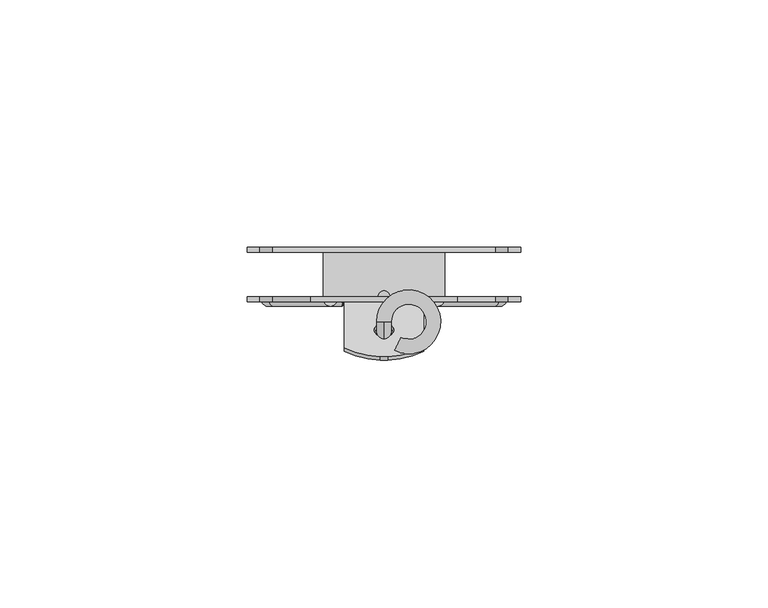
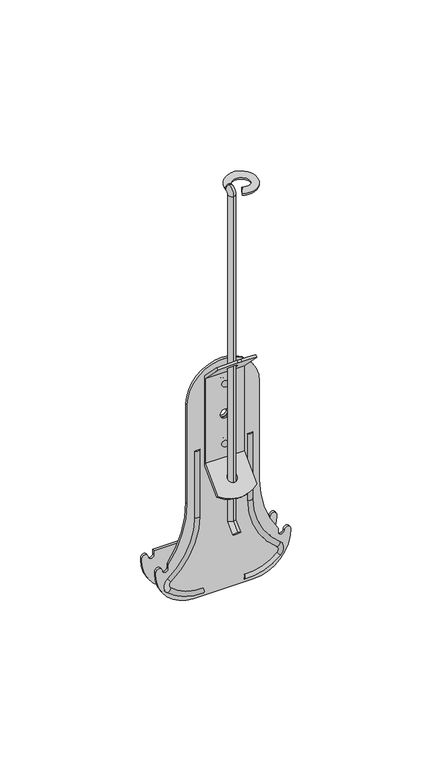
"""IFC4 building model written with IfcOpenShell, lengths in millimetres: proxy geometry, Анкерный подвес с зажимом для профилей ПП 60x27 : Анкерный подвес с зажимом для профилей ПП 60x27."""

from ifc_helpers import new_model, si_unit, point, frame, origin, place, context, project, spatial, polyline, circle_curve, ellipse_curve, trimmed, source, transform, mapped, element, save
from ifc_brep_helpers import plane_surface, cylinder_surface, revolved_surface, advanced_brep


def generic_models_5f2788f5(model_context):
    return source(origin(), model_context, "Body", "AdvancedBrep", [
        advanced_brep(
        [(1.4615158, -4.5763756, 158.5411196), (-1.4562451, -4.5763756, 158.5411196), (3.4485103, -7.758234, 158.5411196), (2.1679647, -10.3799761, 158.5411196)],
        [
            (0, 1, circle_curve(frame((0.0026354, -4.5763756, 158.5411196), z_axis=(0.0, -1.0, 0.0), x_axis=(-1.0, 0.0, 0.0)), 1.4588804)),
            (1, 0, circle_curve(frame((0.0026354, -4.5763756, 158.5411196), z_axis=(0.0, -1.0, 0.0), x_axis=(-1.0, 0.0, 0.0)), 1.4588804)),
            (2, 3, circle_curve(frame((2.8082375, -9.069105, 158.5411196), z_axis=(-0.898545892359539, 0.4388795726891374, 0.0), x_axis=(-0.4388795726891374, -0.898545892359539, 0.0)), 1.4588804)),
            (3, 2, circle_curve(frame((2.8082375, -9.069105, 158.5411196), z_axis=(-0.898545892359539, 0.4388795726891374, 0.0), x_axis=(-0.4388795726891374, -0.898545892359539, 0.0)), 1.4588804)),
            (3, 1, circle_curve(frame((5.0026354, -4.5763756, 158.5411196), z_axis=(0.0, 0.0, 1.0), x_axis=(-1.0, 0.0, 0.0)), 6.4588804)),
            (0, 2, circle_curve(frame((5.0026354, -4.5763756, 158.5411196), z_axis=(0.0, 0.0, -1.0), x_axis=(-1.0, 0.0, 0.0)), 3.5411196)),
        ],
        [
            plane_surface(frame((0.0026354, -4.5763756, 160.0), z_axis=(0.0, -1.0, 0.0), x_axis=(0.0, 0.0, 1.0))),
            plane_surface(frame((2.8082375, -9.069105, 160.0), z_axis=(-0.8985458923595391, 0.4388795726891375, 0.0), x_axis=(0.0, 0.0, 1.0))),
            revolved_surface(trimmed(ellipse_curve(frame((0.0026354, -4.5763756, 158.5411196), z_axis=(0.0, -1.0, 0.0), x_axis=(-1.0, 0.0, 0.0)), 1.4588804, 1.4588804), [point((1.4615158, -4.5763756, 158.5411196))], [point((-1.4562451, -4.5763756, 158.5411196))], True, "CARTESIAN"), (5.0026354, -4.5763756, 160.0), (0.0, 0.0, -1.0)),
            revolved_surface(trimmed(ellipse_curve(frame((0.0026354, -4.5763756, 158.5411196), z_axis=(0.0, -1.0, 0.0), x_axis=(-1.0, 0.0, 0.0)), 1.4588804, 1.4588804), [point((-1.4562451, -4.5763756, 158.5411196))], [point((1.4615158, -4.5763756, 158.5411196))], True, "CARTESIAN"), (5.0026354, -4.5763756, 160.0), (0.0, 0.0, -1.0)),
        ],
        [
            (0, [[1, 2]]),
            (1, [[3, 4]]),
            (2, [[5, -1, 6, -4]]),
            (3, [[-6, -2, -5, -3]]),
        ],
    ),
        advanced_brep(
        [(0.0, -9.0821887, 10.4347453), (0.0, -11.1416303, 12.4941869), (0.0, -5.1201305, 14.3968035), (0.0, -8.0326207, 15.6031965), (0.0, -5.1201305, 156.5), (0.0, -8.0326207, 156.5), (0.0, -4.5763756, 157.0437549), (0.0, -4.5763756, 159.9562451)],
        [
            (0, 1, circle_curve(frame((0.0, -10.1119095, 11.4644661), z_axis=(0.0, -0.7071067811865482, -0.7071067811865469), x_axis=(0.0, -0.7071067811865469, 0.7071067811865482)), 1.4562451)),
            (1, 0, circle_curve(frame((0.0, -10.1119095, 11.4644661), z_axis=(0.0, -0.7071067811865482, -0.7071067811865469), x_axis=(0.0, -0.7071067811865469, 0.7071067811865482)), 1.4562451)),
            (0, 2),
            (2, 3, ellipse_curve(frame((0.0, -6.5763756, 15.0), z_axis=(0.0, -0.3826834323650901, -0.9238795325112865), x_axis=(0.0, -0.923879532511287, 0.3826834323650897)), 1.5762283, 1.4562451)),
            (3, 1),
            (3, 2, ellipse_curve(frame((0.0, -6.5763756, 15.0), z_axis=(0.0, -0.3826834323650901, -0.9238795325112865), x_axis=(0.0, -0.923879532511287, 0.3826834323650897)), 1.5762283, 1.4562451)),
            (2, 4),
            (4, 5, circle_curve(frame((0.0, -6.5763756, 156.5), z_axis=(0.0, 0.0, -1.0), x_axis=(0.0, -1.0, 0.0)), 1.4562451)),
            (5, 3),
            (5, 4, circle_curve(frame((0.0, -6.5763756, 156.5), z_axis=(0.0, 0.0, -1.0), x_axis=(0.0, -1.0, 0.0)), 1.4562451)),
            (6, 7, circle_curve(frame((0.0, -4.5763756, 158.5), z_axis=(0.0, 1.0, 0.0), x_axis=(0.0, 0.0, 1.0)), 1.4562451)),
            (7, 6, circle_curve(frame((0.0, -4.5763756, 158.5), z_axis=(0.0, 1.0, 0.0), x_axis=(0.0, 0.0, 1.0)), 1.4562451)),
            (7, 5, circle_curve(frame((0.0, -4.5763756, 156.5), z_axis=(1.0, 0.0, 0.0), x_axis=(0.0, -1.0, 0.0)), 3.4562451)),
            (4, 6, circle_curve(frame((0.0, -4.5763756, 156.5), z_axis=(-1.0, 0.0, 0.0), x_axis=(0.0, -1.0, 0.0)), 0.5437549)),
        ],
        [
            plane_surface(frame((0.0, -10.1119095, 11.4644661), z_axis=(0.0, -0.7071067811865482, -0.7071067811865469), x_axis=(1.0, 0.0, 0.0))),
            cylinder_surface(frame((0.0, -10.1119095, 11.4644661), z_axis=(0.0, -0.7071067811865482, -0.7071067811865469), x_axis=(0.0, -0.7071067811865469, 0.7071067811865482)), 1.4562451),
            cylinder_surface(frame((0.0, -6.5763756, 15.0), z_axis=(0.0, 0.0, -1.0), x_axis=(0.0, -1.0, 0.0)), 1.4562451),
            plane_surface(frame((0.0, -4.5763756, 158.5), z_axis=(0.0, 1.0, 0.0), x_axis=(1.0, 0.0, 0.0))),
            revolved_surface(trimmed(ellipse_curve(frame((0.0, -6.5763756, 156.5), z_axis=(0.0, 0.0, -1.0), x_axis=(0.0, -1.0, 0.0)), 1.4562451, 1.4562451), [point((0.0, -5.1201305, 156.5))], [point((0.0, -8.0326207, 156.5))], True, "CARTESIAN"), (0.0, -4.5763756, 156.5), (-1.0, 0.0, 0.0)),
            revolved_surface(trimmed(ellipse_curve(frame((0.0, -6.5763756, 156.5), z_axis=(0.0, 0.0, -1.0), x_axis=(0.0, -1.0, 0.0)), 1.4562451, 1.4562451), [point((0.0, -8.0326207, 156.5))], [point((0.0, -5.1201305, 156.5))], True, "CARTESIAN"), (0.0, -4.5763756, 156.5), (-1.0, 0.0, 0.0)),
        ],
        [
            (0, [[1, 2]]),
            (1, [[-1, 3, 4, 5]]),
            (1, [[-2, -5, 6, -3]]),
            (2, [[-4, 7, 8, 9]]),
            (2, [[-6, -9, 10, -7]]),
            (3, [[11, 12]]),
            (4, [[13, -8, 14, -12]]),
            (5, [[-14, -10, -13, -11]]),
        ],
    ),
        advanced_brep(
        [(12.3125406, 0.5, -18.3083515), (12.3125406, 9.5, -18.3083515), (12.3125406, 9.5, -17.3083515), (12.3125406, 0.5, -17.3083515), (-12.3125406, 9.5, -17.3083515), (-12.3125406, 0.5, -17.3083515), (-12.3125406, 9.5, -18.3083515), (-12.3125406, 0.5, -18.3083515), (12.3125406, -0.5, -18.3083515), (-12.3125406, -0.5, -18.3083515), (-12.3125406, 10.5, -18.3083515), (12.3125406, 10.5, -18.3083515), (-14.8079038, -0.5, 23.7764129), (-22.5333287, -0.5, 0.0), (-22.5333287, -0.5, -1.7519095), (-25.1521363, -0.5, -1.7519095), (-27.659329, -0.5, -1.7519095), (-27.659329, -0.5, -2.7244637), (27.659329, -0.5, -2.7244637), (27.659329, -0.5, -1.7519095), (25.1521363, -0.5, -1.7519095), (22.5333287, -0.5, -1.7519095), (22.5333287, -0.5, 0.0), (14.8079038, -0.5, 23.7764129), (14.8079038, -0.5, 66.6922037), (-14.8079038, -0.5, 66.6922037), (-1.8679865, -0.5, 58.4017665), (1.8679865, -0.5, 58.4017665), (-14.8079038, 0.5, 23.7764129), (-14.8079038, 0.5, 66.6922037), (14.8079038, 0.5, 66.6922037), (14.8079038, 0.5, 23.7764129), (22.5333287, 0.5, 0.0), (22.5333287, 0.5, -1.7519095), (25.1521363, 0.5, -1.7519095), (27.659329, 0.5, -1.7519095), (27.659329, 0.5, -2.7244637), (-27.659329, 0.5, -2.7244637), (-27.659329, 0.5, -1.7519095), (-25.1521363, 0.5, -1.7519095), (-22.5333287, 0.5, -1.7519095), (-22.5333287, 0.5, 0.0), (-1.8679865, 0.5, 58.4017665), (1.8679865, 0.5, 58.4017665), (-22.5333287, 9.5, -1.7519095), (-25.1521363, 9.5, -1.7519095), (-27.659329, 9.5, -1.7519095), (-27.659329, 9.5, -2.7244637), (27.659329, 9.5, -2.7244637), (27.659329, 9.5, -1.7519095), (25.1521363, 9.5, -1.7519095), (22.5333287, 9.5, -1.7519095), (22.5333287, 9.5, 0.0), (-22.5333287, 9.5, 0.0), (-22.5333287, 10.5, -1.7519095), (-22.5333287, 10.5, 0.0), (22.5333287, 10.5, 0.0), (22.5333287, 10.5, -1.7519095), (25.1521363, 10.5, -1.7519095), (27.659329, 10.5, -1.7519095), (27.659329, 10.5, -2.7244637), (-27.659329, 10.5, -2.7244637), (-27.659329, 10.5, -1.7519095), (-25.1521363, 10.5, -1.7519095)],
        [
            (0, 1),
            (1, 2),
            (2, 3),
            (3, 0),
            (2, 4),
            (4, 5),
            (5, 3),
            (4, 6),
            (6, 7),
            (7, 5),
            (0, 8),
            (8, 9),
            (9, 7),
            (6, 10),
            (10, 11),
            (11, 1),
            (12, 13, circle_curve(frame((-55.2587535, -0.5, 23.7764129), z_axis=(0.0, 1.0, 0.0), x_axis=(1.0, 0.0, 0.0)), 40.4508497)),
            (13, 14),
            (14, 15, circle_curve(frame((-23.8427325, -0.5, -1.7519095), z_axis=(0.0, 1.0, 0.0), x_axis=(1.0, 0.0, 0.0)), 1.3094038)),
            (15, 16, circle_curve(frame((-26.4057327, -0.5, -1.7519095), z_axis=(0.0, -1.0, 0.0), x_axis=(1.0, 0.0, 0.0)), 1.2535963)),
            (16, 17),
            (17, 9, circle_curve(frame((-12.0736096, -0.5, -2.7244637), z_axis=(0.0, -1.0, 0.0), x_axis=(1.0, 0.0, 0.0)), 15.5857194)),
            (8, 18, circle_curve(frame((12.0736096, -0.5, -2.7244637), z_axis=(0.0, -1.0, 0.0), x_axis=(-1.0, 0.0, 0.0)), 15.5857194)),
            (18, 19),
            (19, 20, circle_curve(frame((26.4057327, -0.5, -1.7519095), z_axis=(0.0, -1.0, 0.0), x_axis=(-1.0, 0.0, 0.0)), 1.2535963)),
            (20, 21, circle_curve(frame((23.8427325, -0.5, -1.7519095), z_axis=(0.0, 1.0, 0.0), x_axis=(-1.0, 0.0, 0.0)), 1.3094038)),
            (21, 22),
            (22, 23, circle_curve(frame((55.2587535, -0.5, 23.7764129), z_axis=(0.0, 1.0, 0.0), x_axis=(1.0, 0.0, 0.0)), 40.4508497)),
            (23, 24),
            (24, 25, circle_curve(frame((0.0, -0.5, 66.6922037), z_axis=(0.0, -1.0, 0.0), x_axis=(1.0, 0.0, 0.0)), 14.8079038)),
            (25, 12),
            (26, 27, circle_curve(frame((0.0, -0.5, 58.4017665), z_axis=(0.0, 1.0, 0.0), x_axis=(1.0, 0.0, 0.0)), 1.8679865)),
            (27, 26, circle_curve(frame((0.0, -0.5, 58.4017665), z_axis=(0.0, 1.0, 0.0), x_axis=(1.0, 0.0, 0.0)), 1.8679865)),
            (28, 29),
            (29, 30, circle_curve(frame((0.0, 0.5, 66.6922037), z_axis=(0.0, 1.0, 0.0), x_axis=(1.0, 0.0, 0.0)), 14.8079038)),
            (30, 31),
            (31, 32, circle_curve(frame((55.2587535, 0.5, 23.7764129), z_axis=(0.0, -1.0, 0.0), x_axis=(1.0, 0.0, 0.0)), 40.4508497)),
            (32, 33),
            (33, 34, circle_curve(frame((23.8427325, 0.5, -1.7519095), z_axis=(0.0, -1.0, 0.0), x_axis=(-1.0, 0.0, 0.0)), 1.3094038)),
            (34, 35, circle_curve(frame((26.4057327, 0.5, -1.7519095), z_axis=(0.0, 1.0, 0.0), x_axis=(-1.0, 0.0, 0.0)), 1.2535963)),
            (35, 36),
            (36, 0, circle_curve(frame((12.0736096, 0.5, -2.7244637), z_axis=(0.0, 1.0, 0.0), x_axis=(-1.0, 0.0, 0.0)), 15.5857194)),
            (7, 37, circle_curve(frame((-12.0736096, 0.5, -2.7244637), z_axis=(0.0, 1.0, 0.0), x_axis=(1.0, 0.0, 0.0)), 15.5857194)),
            (37, 38),
            (38, 39, circle_curve(frame((-26.4057327, 0.5, -1.7519095), z_axis=(0.0, 1.0, 0.0), x_axis=(1.0, 0.0, 0.0)), 1.2535963)),
            (39, 40, circle_curve(frame((-23.8427325, 0.5, -1.7519095), z_axis=(0.0, -1.0, 0.0), x_axis=(1.0, 0.0, 0.0)), 1.3094038)),
            (40, 41),
            (41, 28, circle_curve(frame((-55.2587535, 0.5, 23.7764129), z_axis=(0.0, -1.0, 0.0), x_axis=(1.0, 0.0, 0.0)), 40.4508497)),
            (42, 43, circle_curve(frame((0.0, 0.5, 58.4017665), z_axis=(0.0, -1.0, 0.0), x_axis=(1.0, 0.0, 0.0)), 1.8679865)),
            (43, 42, circle_curve(frame((0.0, 0.5, 58.4017665), z_axis=(0.0, -1.0, 0.0), x_axis=(1.0, 0.0, 0.0)), 1.8679865)),
            (13, 41),
            (40, 14),
            (39, 15),
            (38, 16),
            (37, 17),
            (36, 18),
            (35, 19),
            (34, 20),
            (33, 21),
            (32, 22),
            (23, 31),
            (30, 24),
            (29, 25),
            (28, 12),
            (26, 42),
            (43, 27),
            (44, 45, circle_curve(frame((-23.8427325, 9.5, -1.7519095), z_axis=(0.0, 1.0, 0.0), x_axis=(1.0, 0.0, 0.0)), 1.3094038)),
            (45, 46, circle_curve(frame((-26.4057327, 9.5, -1.7519095), z_axis=(0.0, -1.0, 0.0), x_axis=(1.0, 0.0, 0.0)), 1.2535963)),
            (46, 47),
            (47, 6, circle_curve(frame((-12.0736096, 9.5, -2.7244637), z_axis=(0.0, -1.0, 0.0), x_axis=(1.0, 0.0, 0.0)), 15.5857194)),
            (1, 48, circle_curve(frame((12.0736096, 9.5, -2.7244637), z_axis=(0.0, -1.0, 0.0), x_axis=(-1.0, 0.0, 0.0)), 15.5857194)),
            (48, 49),
            (49, 50, circle_curve(frame((26.4057327, 9.5, -1.7519095), z_axis=(0.0, -1.0, 0.0), x_axis=(-1.0, 0.0, 0.0)), 1.2535963)),
            (50, 51, circle_curve(frame((23.8427325, 9.5, -1.7519095), z_axis=(0.0, 1.0, 0.0), x_axis=(-1.0, 0.0, 0.0)), 1.3094038)),
            (51, 52),
            (52, 53),
            (53, 44),
            (54, 55),
            (55, 56),
            (56, 57),
            (57, 58, circle_curve(frame((23.8427325, 10.5, -1.7519095), z_axis=(0.0, -1.0, 0.0), x_axis=(-1.0, 0.0, 0.0)), 1.3094038)),
            (58, 59, circle_curve(frame((26.4057327, 10.5, -1.7519095), z_axis=(0.0, 1.0, 0.0), x_axis=(-1.0, 0.0, 0.0)), 1.2535963)),
            (59, 60),
            (60, 11, circle_curve(frame((12.0736096, 10.5, -2.7244637), z_axis=(0.0, 1.0, 0.0), x_axis=(-1.0, 0.0, 0.0)), 15.5857194)),
            (10, 61, circle_curve(frame((-12.0736096, 10.5, -2.7244637), z_axis=(0.0, 1.0, 0.0), x_axis=(1.0, 0.0, 0.0)), 15.5857194)),
            (61, 62),
            (62, 63, circle_curve(frame((-26.4057327, 10.5, -1.7519095), z_axis=(0.0, 1.0, 0.0), x_axis=(1.0, 0.0, 0.0)), 1.2535963)),
            (63, 54, circle_curve(frame((-23.8427325, 10.5, -1.7519095), z_axis=(0.0, -1.0, 0.0), x_axis=(1.0, 0.0, 0.0)), 1.3094038)),
            (53, 55),
            (54, 44),
            (63, 45),
            (62, 46),
            (61, 47),
            (60, 48),
            (59, 49),
            (58, 50),
            (57, 51),
            (56, 52),
        ],
        [
            plane_surface(frame((12.3125406, 0.5, -18.3083515), z_axis=(1.0, 0.0, 0.0), x_axis=(0.0, 1.0, 0.0))),
            plane_surface(frame((12.3125406, 0.5, -17.3083515), z_axis=(0.0, 0.0, 1.0), x_axis=(0.0, 1.0, 0.0))),
            plane_surface(frame((-12.3125406, 0.5, -17.3083515), z_axis=(-1.0, 0.0, 0.0), x_axis=(0.0, 1.0, 0.0))),
            plane_surface(frame((-12.3125406, 0.5, -18.3083515), z_axis=(0.0, 0.0, -1.0), x_axis=(0.0, 1.0, 0.0))),
            plane_surface(frame((-14.8079038, -0.5, 23.7764129), z_axis=(0.0, -1.0, 0.0), x_axis=(0.0, 0.0, -1.0))),
            plane_surface(frame((-14.8079038, 0.5, 23.7764129), z_axis=(0.0, 1.0, 0.0), x_axis=(0.0, 0.0, 1.0))),
            plane_surface(frame((-22.5333287, -0.5, 0.0), z_axis=(-1.0, 0.0, 0.0), x_axis=(0.0, 1.0, 0.0))),
            revolved_surface(polyline([(-22.533328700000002, 0.5, -1.7519095), (-22.533328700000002, -0.5, -1.7519095)]), (-23.8427325, 0.5, -1.7519095), (0.0, 1.0, 0.0)),
            cylinder_surface(frame((-26.4057327, 0.5, -1.7519095), z_axis=(0.0, -1.0, 0.0), x_axis=(1.0, 0.0, 0.0)), 1.2535963),
            plane_surface(frame((-27.659329, -0.5, -1.7519095), z_axis=(-1.0, 0.0, 0.0), x_axis=(0.0, 1.0, 0.0))),
            cylinder_surface(frame((-12.0736096, 0.5, -2.7244637), z_axis=(0.0, -1.0, 0.0), x_axis=(1.0, 0.0, 0.0)), 15.5857194),
            cylinder_surface(frame((12.0736096, 0.5, -2.7244637), z_axis=(0.0, -1.0, 0.0), x_axis=(-1.0, 0.0, 0.0)), 15.5857194),
            plane_surface(frame((27.659329, -0.5, -2.7244637), z_axis=(1.0, 0.0, 0.0), x_axis=(0.0, 1.0, 0.0))),
            cylinder_surface(frame((26.4057327, 0.5, -1.7519095), z_axis=(0.0, -1.0, 0.0), x_axis=(-1.0, 0.0, 0.0)), 1.2535963),
            revolved_surface(polyline([(22.533328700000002, 0.5, -1.7519095), (22.533328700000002, -0.5, -1.7519095)]), (23.8427325, 0.5, -1.7519095), (0.0, 1.0, 0.0)),
            plane_surface(frame((22.5333287, -0.5, -1.7519095), z_axis=(1.0, 0.0, 0.0), x_axis=(0.0, 1.0, 0.0))),
            plane_surface(frame((14.8079038, -0.5, 23.7764129), z_axis=(1.0, 0.0, 0.0), x_axis=(0.0, 1.0, 0.0))),
            cylinder_surface(frame((0.0, 0.5, 66.6922037), z_axis=(0.0, -1.0, 0.0), x_axis=(1.0, 0.0, 0.0)), 14.8079038),
            plane_surface(frame((-14.8079038, -0.5, 66.6922037), z_axis=(-1.0, 0.0, 0.0), x_axis=(0.0, 1.0, 0.0))),
            revolved_surface(polyline([(-14.807903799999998, 0.5, 23.7764129), (-14.807903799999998, -0.5, 23.7764129)]), (-55.2587535, 0.5, 23.7764129), (0.0, 1.0, 0.0)),
            revolved_surface(polyline([(95.7096032, 0.5, 23.7764129), (95.7096032, -0.5, 23.7764129)]), (55.2587535, 0.5, 23.7764129), (0.0, 1.0, 0.0)),
            revolved_surface(polyline([(1.8679865, 0.5, 58.4017665), (1.8679865, -0.5, 58.4017665)]), (0.0, 0.0, 58.4017665), (0.0, 1.0, 0.0)),
            plane_surface(frame((-22.5333287, 9.5, -1.7519095), z_axis=(0.0, -1.0, 0.0), x_axis=(0.0, 0.0, -1.0))),
            plane_surface(frame((-22.5333287, 10.5, -1.7519095), z_axis=(0.0, 1.0, 0.0), x_axis=(0.0, 0.0, 1.0))),
            plane_surface(frame((-22.5333287, 9.5, 0.0), z_axis=(-1.0, 0.0, 0.0), x_axis=(0.0, 1.0, 0.0))),
            revolved_surface(polyline([(-22.533328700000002, 10.5, -1.7519095), (-22.533328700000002, 9.5, -1.7519095)]), (-23.8427325, 10.5, -1.7519095), (0.0, 1.0, 0.0)),
            cylinder_surface(frame((-26.4057327, 10.5, -1.7519095), z_axis=(0.0, -1.0, 0.0), x_axis=(1.0, 0.0, 0.0)), 1.2535963),
            plane_surface(frame((-27.659329, 9.5, -1.7519095), z_axis=(-1.0, 0.0, 0.0), x_axis=(0.0, 1.0, 0.0))),
            cylinder_surface(frame((-12.0736096, 10.5, -2.7244637), z_axis=(0.0, -1.0, 0.0), x_axis=(1.0, 0.0, 0.0)), 15.5857194),
            cylinder_surface(frame((12.0736096, 10.5, -2.7244637), z_axis=(0.0, -1.0, 0.0), x_axis=(-1.0, 0.0, 0.0)), 15.5857194),
            plane_surface(frame((27.659329, 9.5, -2.7244637), z_axis=(1.0, 0.0, 0.0), x_axis=(0.0, 1.0, 0.0))),
            cylinder_surface(frame((26.4057327, 10.5, -1.7519095), z_axis=(0.0, -1.0, 0.0), x_axis=(-1.0, 0.0, 0.0)), 1.2535963),
            revolved_surface(polyline([(22.533328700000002, 10.5, -1.7519095), (22.533328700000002, 9.5, -1.7519095)]), (23.8427325, 10.5, -1.7519095), (0.0, 1.0, 0.0)),
            plane_surface(frame((22.5333287, 9.5, -1.7519095), z_axis=(1.0, 0.0, 0.0), x_axis=(0.0, 1.0, 0.0))),
            plane_surface(frame((22.5333287, 9.5, 0.0), z_axis=(0.0, 0.0, 1.0), x_axis=(0.0, 1.0, 0.0))),
        ],
        [
            (0, [[1, 2, 3, 4]]),
            (1, [[-3, 5, 6, 7]]),
            (2, [[-6, 8, 9, 10]]),
            (3, [[-1, 11, 12, 13, -9, 14, 15, 16]]),
            (4, [[17, 18, 19, 20, 21, 22, -12, 23, 24, 25, 26, 27, 28, 29, 30, 31], [32, 33]]),
            (5, [[34, 35, 36, 37, 38, 39, 40, 41, 42, -4, -7, -10, 43, 44, 45, 46, 47, 48], [49, 50]]),
            (6, [[-18, 51, -47, 52]]),
            (7, [[-19, -52, -46, 53]]),
            (8, [[-20, -53, -45, 54]]),
            (9, [[-21, -54, -44, 55]]),
            (10, [[-22, -55, -43, -13]]),
            (11, [[-23, -11, -42, 56]]),
            (12, [[-24, -56, -41, 57]]),
            (13, [[-25, -57, -40, 58]]),
            (14, [[-26, -58, -39, 59]]),
            (15, [[-27, -59, -38, 60]]),
            (16, [[-29, 61, -36, 62]]),
            (17, [[-30, -62, -35, 63]]),
            (18, [[-31, -63, -34, 64]]),
            (19, [[-17, -64, -48, -51]]),
            (20, [[-28, -60, -37, -61]]),
            (21, [[-32, 65, -50, 66]]),
            (21, [[-33, -66, -49, -65]]),
            (22, [[67, 68, 69, 70, -8, -5, -2, 71, 72, 73, 74, 75, 76, 77]]),
            (23, [[78, 79, 80, 81, 82, 83, 84, -15, 85, 86, 87, 88]]),
            (24, [[-77, 89, -78, 90]]),
            (25, [[-67, -90, -88, 91]]),
            (26, [[-68, -91, -87, 92]]),
            (27, [[-69, -92, -86, 93]]),
            (28, [[-70, -93, -85, -14]]),
            (29, [[-71, -16, -84, 94]]),
            (30, [[-72, -94, -83, 95]]),
            (31, [[-73, -95, -82, 96]]),
            (32, [[-74, -96, -81, 97]]),
            (33, [[-75, -97, -80, 98]]),
            (34, [[-76, -98, -79, -89]]),
        ],
    ),
        advanced_brep(
        [(0.0, 0.5, 72.6289125), (0.0, 0.5, 70.2128266)],
        [
            (0, 1),
            (1, 0, circle_curve(frame((0.0, 0.5, 71.4208696), z_axis=(0.0, -1.0, 0.0), x_axis=(1.0, 0.0, 0.0)), 1.2080429)),
            (0, 1, circle_curve(frame((0.0, 0.5, 71.4208696), z_axis=(0.0, -1.0, 0.0), x_axis=(-1.0, 0.0, 0.0)), 1.2080429)),
        ],
        [
            plane_surface(frame((0.0, 0.5, 68.7718107), z_axis=(0.0, -1.0, 0.0), x_axis=(1.0, 0.0, 0.0))),
            plane_surface(frame((0.0, 0.5, 68.7718107), z_axis=(0.0, -1.0, 0.0), x_axis=(-1.0, 0.0, 0.0))),
            revolved_surface(trimmed(ellipse_curve(frame((0.0, 0.5, 71.4208696), z_axis=(0.0, 1.0, 0.0), x_axis=(1.0, 0.0, 0.0)), 1.2080429, 1.2080429), [point((0.0, 0.5, 72.6289125))], [point((0.0, 0.5, 70.2128266))], True, "CARTESIAN"), (0.0, 0.5, 68.7718107), (0.0, 0.0, -1.0)),
        ],
        [
            (0, [[1, 2]]),
            (1, [[3, -1]]),
            (2, [[-2, -3]]),
        ],
    ),
        advanced_brep(
        [(0.0, 0.5, 44.1746205), (0.0, 0.5, 46.5907064)],
        [
            (0, 1, circle_curve(frame((0.0, 0.5, 45.3826634), z_axis=(0.0, -1.0, 0.0), x_axis=(1.0, 0.0, 0.0)), 1.2080429)),
            (1, 0),
            (1, 0, circle_curve(frame((0.0, 0.5, 45.3826634), z_axis=(0.0, -1.0, 0.0), x_axis=(-1.0, 0.0, 0.0)), 1.2080429)),
        ],
        [
            plane_surface(frame((0.0, 0.5, 48.0317223), z_axis=(0.0, -1.0, 0.0), x_axis=(1.0, 0.0, 0.0))),
            plane_surface(frame((0.0, 0.5, 48.0317223), z_axis=(0.0, -1.0, 0.0), x_axis=(-1.0, 0.0, 0.0))),
            revolved_surface(trimmed(ellipse_curve(frame((0.0, 0.5, 45.3826634), z_axis=(0.0, 1.0, 0.0), x_axis=(1.0, 0.0, 0.0)), 1.2080429, 1.2080429), [point((0.0, 0.5, 46.5907064))], [point((0.0, 0.5, 44.1746205))], True, "CARTESIAN"), (0.0, 0.5, 48.0317223), (0.0, 0.0, -1.0)),
        ],
        [
            (0, [[1, 2]]),
            (1, [[3, -2]]),
            (2, [[-1, -3]]),
        ],
    ),
        advanced_brep(
        [(0.0, -1.5, 72.6289125), (0.0, -1.5, 70.2128266)],
        [
            (0, 1, circle_curve(frame((0.0, -1.5, 71.4208696), z_axis=(0.0, 1.0, 0.0), x_axis=(1.0, 0.0, 0.0)), 1.2080429)),
            (1, 0),
            (1, 0, circle_curve(frame((0.0, -1.5, 71.4208696), z_axis=(0.0, 1.0, 0.0), x_axis=(-1.0, 0.0, 0.0)), 1.2080429)),
        ],
        [
            plane_surface(frame((0.0, -1.5, 68.7718107), z_axis=(0.0, 1.0, 0.0), x_axis=(1.0, 0.0, 0.0))),
            plane_surface(frame((0.0, -1.5, 68.7718107), z_axis=(0.0, 1.0, 0.0), x_axis=(-1.0, 0.0, 0.0))),
            revolved_surface(trimmed(ellipse_curve(frame((0.0, -1.5, 71.4208696), z_axis=(0.0, -1.0, 0.0), x_axis=(1.0, 0.0, 0.0)), 1.2080429, 1.2080429), [point((0.0, -1.5, 70.2128266))], [point((0.0, -1.5, 72.6289125))], True, "CARTESIAN"), (0.0, -1.5, 68.7718107), (0.0, 0.0, 1.0)),
        ],
        [
            (0, [[1, 2]]),
            (1, [[3, -2]]),
            (2, [[-1, -3]]),
        ],
    ),
        advanced_brep(
        [(0.0, -1.5, 44.1746205), (0.0, -1.5, 46.5907064)],
        [
            (0, 1),
            (1, 0, circle_curve(frame((0.0, -1.5, 45.3826634), z_axis=(0.0, 1.0, 0.0), x_axis=(1.0, 0.0, 0.0)), 1.2080429)),
            (0, 1, circle_curve(frame((0.0, -1.5, 45.3826634), z_axis=(0.0, 1.0, 0.0), x_axis=(-1.0, 0.0, 0.0)), 1.2080429)),
        ],
        [
            plane_surface(frame((0.0, -1.5, 48.0317223), z_axis=(0.0, 1.0, 0.0), x_axis=(1.0, 0.0, 0.0))),
            plane_surface(frame((0.0, -1.5, 48.0317223), z_axis=(0.0, 1.0, 0.0), x_axis=(-1.0, 0.0, 0.0))),
            revolved_surface(trimmed(ellipse_curve(frame((0.0, -1.5, 45.3826634), z_axis=(0.0, -1.0, 0.0), x_axis=(1.0, 0.0, 0.0)), 1.2080429, 1.2080429), [point((0.0, -1.5, 44.1746205))], [point((0.0, -1.5, 46.5907064))], True, "CARTESIAN"), (0.0, -1.5, 48.0317223), (0.0, 0.0, 1.0)),
        ],
        [
            (0, [[1, 2]]),
            (1, [[3, -1]]),
            (2, [[-2, -3]]),
        ],
    ),
        advanced_brep(
        [(12.2426317, 0.0, 45.8503653), (9.4813655, 0.0, 45.8503653), (9.4813655, 0.0, 16.9964207), (12.2426317, 0.0, 16.9964207), (23.2490237, 0.0, -5.4508262), (23.5400527, 0.0, -11.7798843), (8.3343545, 0.0, -17.2410858), (8.503601, 0.0, -14.4850112), (21.655956, 0.0, -9.7612781), (21.5581292, 0.0, -7.6338212)],
        [
            (0, 1),
            (1, 0, circle_curve(frame((10.8619986, 0.0, 45.8503653), z_axis=(0.0, 0.0, 1.0), x_axis=(-1.0, 0.0, 0.0)), 1.3806331)),
            (1, 2),
            (2, 3, circle_curve(frame((10.8619986, 0.0, 16.9964207), z_axis=(0.0, 0.0, 1.0), x_axis=(-1.0, 0.0, 0.0)), 1.3806331)),
            (3, 0),
            (3, 4, circle_curve(frame((40.6361124, 0.0, 16.9964207), z_axis=(0.0, -1.0, 0.0), x_axis=(-1.0, 0.0, 0.0)), 28.3934806)),
            (4, 5, circle_curve(frame((20.7019544, 0.0, -8.7391683), z_axis=(0.0, 1.0, 0.0), x_axis=(0.612362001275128, 0.0, 0.7905774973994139)), 4.1594178)),
            (5, 6, circle_curve(frame((9.5876819, 0.0, 3.1685752), z_axis=(0.0, 1.0, 0.0), x_axis=(0.6823306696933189, 0.0, -0.7310436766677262)), 20.4481073)),
            (6, 7),
            (7, 8, circle_curve(frame((9.5876819, 0.0, 3.1685752), z_axis=(0.0, -1.0, 0.0), x_axis=(0.6823306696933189, 0.0, -0.7310436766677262)), 17.686841)),
            (8, 9, circle_curve(frame((20.7019544, 0.0, -8.7391683), z_axis=(0.0, -1.0, 0.0), x_axis=(0.612362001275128, 0.0, 0.7905774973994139)), 1.3981515)),
            (9, 2, circle_curve(frame((40.6361124, 0.0, 16.9964207), z_axis=(0.0, 1.0, 0.0), x_axis=(-1.0, 0.0, 0.0)), 31.1547469)),
            (9, 4, circle_curve(frame((22.4035765, 0.0, -6.5423237), z_axis=(-0.790577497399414, 0.0, 0.6123620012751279), x_axis=(-0.6123620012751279, 0.0, -0.790577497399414)), 1.3806331)),
            (8, 5, circle_curve(frame((22.5980043, 0.0, -10.7705812), z_axis=(0.7310436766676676, 0.0, 0.6823306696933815), x_axis=(-0.6823306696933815, 0.0, 0.7310436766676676)), 1.3806331)),
            (6, 7, circle_curve(frame((8.4189777, 0.0, -15.8630485), z_axis=(-0.9981198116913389, 0.0, 0.06129307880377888), x_axis=(0.06129307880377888, 0.0, 0.9981198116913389)), 1.3806331)),
        ],
        [
            plane_surface(frame((10.8619986, 0.0, 45.8503653), z_axis=(0.0, 0.0, 1.0), x_axis=(0.0, -1.0, 0.0))),
            cylinder_surface(frame((10.8619986, 0.0, 45.8503653), z_axis=(0.0, 0.0, 1.0), x_axis=(-1.0, 0.0, 0.0)), 1.3806331),
            plane_surface(frame((12.2426317, 0.0, 45.8503653), z_axis=(0.0, 1.0, 0.0), x_axis=(0.0, 0.0, -1.0))),
            revolved_surface(trimmed(ellipse_curve(frame((10.8619986, 0.0, 16.9964207), z_axis=(0.0, 0.0, 1.0), x_axis=(-1.0, 0.0, 0.0)), 1.3806331, 1.3806331), [point((9.4813655, 0.0, 16.9964207))], [point((12.2426317, 0.0, 16.9964207))], True, "CARTESIAN"), (40.6361124, 0.0, 16.9964207), (0.0, -1.0, 0.0)),
            revolved_surface(trimmed(ellipse_curve(frame((22.4035765, 0.0, -6.5423237), z_axis=(-0.7905774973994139, 0.0, 0.612362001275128), x_axis=(-0.612362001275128, 0.0, -0.7905774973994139)), 1.3806331, 1.3806331), [point((21.5581292, 0.0, -7.6338212))], [point((23.2490237, 0.0, -5.4508262))], True, "CARTESIAN"), (20.7019544, 0.0, -8.7391683), (0.0, 1.0, 0.0)),
            plane_surface(frame((8.4189777, 0.0, -15.8630485), z_axis=(-0.998119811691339, 0.0, 0.06129307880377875), x_axis=(0.0, -1.0, 0.0))),
            revolved_surface(trimmed(ellipse_curve(frame((22.5980043, 0.0, -10.7705812), z_axis=(0.7310436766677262, 0.0, 0.6823306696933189), x_axis=(-0.6823306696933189, 0.0, 0.7310436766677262)), 1.3806331, 1.3806331), [point((21.655956, 0.0, -9.7612781))], [point((23.5400527, 0.0, -11.7798843))], True, "CARTESIAN"), (9.5876819, 0.0, 3.1685752), (0.0, 1.0, 0.0)),
        ],
        [
            (0, [[1, 2]]),
            (1, [[-2, 3, 4, 5]]),
            (2, [[-1, -5, 6, 7, 8, 9, 10, 11, 12, -3]]),
            (3, [[-6, -4, -12, 13]]),
            (4, [[-7, -13, -11, 14]]),
            (5, [[15, -9]]),
            (6, [[-8, -14, -10, -15]]),
        ],
    ),
        advanced_brep(
        [(-12.2426317, 0.0, 45.8503653), (-9.4813655, 0.0, 45.8503653), (-12.2426317, 0.0, 16.9964207), (-9.4813655, 0.0, 16.9964207), (-21.5581292, 0.0, -7.6338212), (-21.655956, 0.0, -9.7612781), (-8.503601, 0.0, -14.4850112), (-8.3343545, 0.0, -17.2410858), (-23.5400527, 0.0, -11.7798843), (-23.2490237, 0.0, -5.4508262)],
        [
            (0, 1, circle_curve(frame((-10.8619986, 0.0, 45.8503653), z_axis=(0.0, 0.0, 1.0), x_axis=(1.0, 0.0, 0.0)), 1.3806331)),
            (1, 0),
            (0, 2),
            (2, 3, circle_curve(frame((-10.8619986, 0.0, 16.9964207), z_axis=(0.0, 0.0, 1.0), x_axis=(1.0, 0.0, 0.0)), 1.3806331)),
            (3, 1),
            (3, 4, circle_curve(frame((-40.6361124, 0.0, 16.9964207), z_axis=(0.0, 1.0, 0.0), x_axis=(1.0, 0.0, 0.0)), 31.1547469)),
            (4, 5, circle_curve(frame((-20.7019544, 0.0, -8.7391683), z_axis=(0.0, -1.0, 0.0), x_axis=(-0.612362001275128, 0.0, 0.7905774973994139)), 1.3981515)),
            (5, 6, circle_curve(frame((-9.5876819, 0.0, 3.1685752), z_axis=(0.0, -1.0, 0.0), x_axis=(-0.6823306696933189, 0.0, -0.7310436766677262)), 17.686841)),
            (6, 7),
            (7, 8, circle_curve(frame((-9.5876819, 0.0, 3.1685752), z_axis=(0.0, 1.0, 0.0), x_axis=(-0.6823306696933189, 0.0, -0.7310436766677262)), 20.4481073)),
            (8, 9, circle_curve(frame((-20.7019544, 0.0, -8.7391683), z_axis=(0.0, 1.0, 0.0), x_axis=(-0.612362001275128, 0.0, 0.7905774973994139)), 4.1594178)),
            (9, 2, circle_curve(frame((-40.6361124, 0.0, 16.9964207), z_axis=(0.0, -1.0, 0.0), x_axis=(1.0, 0.0, 0.0)), 28.3934806)),
            (9, 4, circle_curve(frame((-22.4035765, 0.0, -6.5423237), z_axis=(0.790577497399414, 0.0, 0.6123620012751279), x_axis=(0.6123620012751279, 0.0, -0.790577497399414)), 1.3806331)),
            (8, 5, circle_curve(frame((-22.5980043, 0.0, -10.7705812), z_axis=(-0.7310436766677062, 0.0, 0.6823306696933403), x_axis=(0.6823306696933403, 0.0, 0.7310436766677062)), 1.3806331)),
            (6, 7, circle_curve(frame((-8.4189777, 0.0, -15.8630485), z_axis=(0.9981198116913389, 0.0, 0.06129307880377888), x_axis=(-0.06129307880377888, 0.0, 0.9981198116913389)), 1.3806331)),
        ],
        [
            plane_surface(frame((-10.8619986, 0.0, 45.8503653), z_axis=(0.0, 0.0, 1.0), x_axis=(0.0, -1.0, 0.0))),
            cylinder_surface(frame((-10.8619986, 0.0, 45.8503653), z_axis=(0.0, 0.0, 1.0), x_axis=(1.0, 0.0, 0.0)), 1.3806331),
            plane_surface(frame((-9.4813655, 0.0, 45.8503653), z_axis=(0.0, 1.0, 0.0), x_axis=(0.0, 0.0, -1.0))),
            revolved_surface(trimmed(ellipse_curve(frame((-10.8619986, 0.0, 16.9964207), z_axis=(0.0, 0.0, 1.0), x_axis=(1.0, 0.0, 0.0)), 1.3806331, 1.3806331), [point((-12.2426317, 0.0, 16.9964207))], [point((-9.4813655, 0.0, 16.9964207))], True, "CARTESIAN"), (-40.6361124, 0.0, 16.9964207), (0.0, 1.0, 0.0)),
            revolved_surface(trimmed(ellipse_curve(frame((-22.4035765, 0.0, -6.5423237), z_axis=(0.7905774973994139, 0.0, 0.612362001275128), x_axis=(0.612362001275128, 0.0, -0.7905774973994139)), 1.3806331, 1.3806331), [point((-23.2490237, 0.0, -5.4508262))], [point((-21.5581292, 0.0, -7.6338212))], True, "CARTESIAN"), (-20.7019544, 0.0, -8.7391683), (0.0, -1.0, 0.0)),
            plane_surface(frame((-8.4189777, 0.0, -15.8630485), z_axis=(0.998119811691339, 0.0, 0.06129307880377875), x_axis=(0.0, -1.0, 0.0))),
            revolved_surface(trimmed(ellipse_curve(frame((-22.5980043, 0.0, -10.7705812), z_axis=(-0.7310436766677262, 0.0, 0.6823306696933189), x_axis=(0.6823306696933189, 0.0, 0.7310436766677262)), 1.3806331, 1.3806331), [point((-23.5400527, 0.0, -11.7798843))], [point((-21.655956, 0.0, -9.7612781))], True, "CARTESIAN"), (-9.5876819, 0.0, 3.1685752), (0.0, -1.0, 0.0)),
        ],
        [
            (0, [[1, 2]]),
            (1, [[-1, 3, 4, 5]]),
            (2, [[-2, -5, 6, 7, 8, 9, 10, 11, 12, -3]]),
            (3, [[-6, -4, -12, 13]]),
            (4, [[-7, -13, -11, 14]]),
            (5, [[-9, 15]]),
            (6, [[-8, -14, -10, -15]]),
        ],
    ),
        advanced_brep(
        [(8.0, -1.5, 76.3639155), (8.0, -1.5, 39.469532), (8.0, -10.4936122, 30.4759198), (8.0, -9.7865054, 29.768813), (8.0, -0.5, 39.0553184), (8.0, -0.5, 76.7781291), (8.0, -9.7865054, 86.0646345), (8.0, -10.4936122, 85.3575277), (-8.0, -0.5, 76.7781291), (-8.0, -0.5, 39.0553184), (-8.0, -9.7865054, 29.768813), (-8.0, -10.4936122, 30.4759198), (-8.0, -1.5, 39.469532), (-8.0, -1.5, 76.3639155), (-8.0, -10.4936122, 85.3575277), (-8.0, -9.7865054, 86.0646345), (0.7334263, -11.6385946, 87.9167238), (-0.7334263, -11.6385946, 87.9167238), (-0.7334263, -12.3457014, 87.209617), (0.7334263, -12.3457014, 87.209617), (0.0, -8.3123216, 83.1762371), (0.0, -5.5475364, 80.4114519), (1.8679865, -1.5, 58.4017665), (-1.8679865, -1.5, 58.4017665), (-0.7334263, -12.3457014, 28.6238305), (0.7334263, -12.3457014, 28.6238305), (0.0, -5.5475364, 35.4219956), (0.0, -8.3123216, 32.6572104), (-0.7334263, -11.6385946, 27.9167238), (0.7334263, -11.6385946, 27.9167238), (0.0, -7.6052148, 31.9501036), (0.0, -4.8404296, 34.7148888), (-1.8679865, -0.5, 58.4017665), (1.8679865, -0.5, 58.4017665), (0.0, -4.8404296, 81.1185587), (0.0, -7.6052148, 83.8833439)],
        [
            (0, 1),
            (1, 2),
            (2, 3),
            (3, 4),
            (4, 5),
            (5, 6),
            (6, 7),
            (7, 0),
            (8, 9),
            (9, 10),
            (10, 11),
            (11, 12),
            (12, 13),
            (13, 14),
            (14, 15),
            (15, 8),
            (16, 17),
            (17, 18),
            (18, 19),
            (19, 16),
            (13, 0),
            (7, 19, circle_curve(frame((0.0, -2.8533734, 77.7172889), z_axis=(0.0, -0.7071067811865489, -0.7071067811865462), x_axis=(0.0, 0.7071067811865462, -0.7071067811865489)), 13.4441994)),
            (18, 14, circle_curve(frame((0.0, -2.8533734, 77.7172889), z_axis=(0.0, -0.7071067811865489, -0.7071067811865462), x_axis=(0.0, 0.7071067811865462, -0.7071067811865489)), 13.4441994)),
            (20, 21, circle_curve(frame((0.0, -6.929929, 81.7938445), z_axis=(0.0, 0.7071067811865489, 0.7071067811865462), x_axis=(0.0, 0.7071067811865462, -0.7071067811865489)), 1.9549984)),
            (21, 20, circle_curve(frame((0.0, -6.929929, 81.7938445), z_axis=(0.0, 0.7071067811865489, 0.7071067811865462), x_axis=(0.0, 0.7071067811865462, -0.7071067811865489)), 1.9549984)),
            (12, 1),
            (22, 23, circle_curve(frame((0.0, -1.5, 58.4017665), z_axis=(0.0, 1.0, 0.0), x_axis=(1.0, 0.0, 0.0)), 1.8679865)),
            (23, 22, circle_curve(frame((0.0, -1.5, 58.4017665), z_axis=(0.0, 1.0, 0.0), x_axis=(1.0, 0.0, 0.0)), 1.8679865)),
            (11, 24, circle_curve(frame((0.0, -2.8533734, 38.1161586), z_axis=(0.0, -0.7071067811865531, 0.707106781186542), x_axis=(0.0, 0.707106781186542, 0.7071067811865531)), 13.4441994)),
            (24, 25),
            (25, 2, circle_curve(frame((0.0, -2.8533734, 38.1161586), z_axis=(0.0, -0.7071067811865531, 0.707106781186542), x_axis=(0.0, 0.707106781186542, 0.7071067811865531)), 13.4441994)),
            (26, 27, circle_curve(frame((0.0, -6.929929, 34.039603), z_axis=(0.0, 0.7071067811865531, -0.707106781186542), x_axis=(0.0, 0.707106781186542, 0.7071067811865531)), 1.9549984)),
            (27, 26, circle_curve(frame((0.0, -6.929929, 34.039603), z_axis=(0.0, 0.7071067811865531, -0.707106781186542), x_axis=(0.0, 0.707106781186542, 0.7071067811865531)), 1.9549984)),
            (24, 28),
            (28, 29),
            (29, 25),
            (9, 4),
            (3, 29, circle_curve(frame((0.0, -2.1462666, 37.4090518), z_axis=(0.0, 0.7071067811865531, -0.707106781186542), x_axis=(0.0, 0.707106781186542, 0.7071067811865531)), 13.4441994)),
            (28, 10, circle_curve(frame((0.0, -2.1462666, 37.4090518), z_axis=(0.0, 0.7071067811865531, -0.707106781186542), x_axis=(0.0, 0.707106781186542, 0.7071067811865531)), 13.4441994)),
            (30, 31, circle_curve(frame((0.0, -6.2228222, 33.3324962), z_axis=(0.0, -0.7071067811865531, 0.707106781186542), x_axis=(0.0, 0.707106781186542, 0.7071067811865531)), 1.9549984)),
            (31, 30, circle_curve(frame((0.0, -6.2228222, 33.3324962), z_axis=(0.0, -0.7071067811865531, 0.707106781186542), x_axis=(0.0, 0.707106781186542, 0.7071067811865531)), 1.9549984)),
            (8, 5),
            (32, 33, circle_curve(frame((0.0, -0.5, 58.4017665), z_axis=(0.0, -1.0, 0.0), x_axis=(1.0, 0.0, 0.0)), 1.8679865)),
            (33, 32, circle_curve(frame((0.0, -0.5, 58.4017665), z_axis=(0.0, -1.0, 0.0), x_axis=(1.0, 0.0, 0.0)), 1.8679865)),
            (15, 17, circle_curve(frame((0.0, -2.1462666, 78.4243957), z_axis=(0.0, 0.7071067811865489, 0.7071067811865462), x_axis=(0.0, 0.7071067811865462, -0.7071067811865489)), 13.4441994)),
            (16, 6, circle_curve(frame((0.0, -2.1462666, 78.4243957), z_axis=(0.0, 0.7071067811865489, 0.7071067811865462), x_axis=(0.0, 0.7071067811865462, -0.7071067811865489)), 13.4441994)),
            (34, 35, circle_curve(frame((0.0, -6.2228222, 82.5009513), z_axis=(0.0, -0.7071067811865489, -0.7071067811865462), x_axis=(0.0, 0.7071067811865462, -0.7071067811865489)), 1.9549984)),
            (35, 34, circle_curve(frame((0.0, -6.2228222, 82.5009513), z_axis=(0.0, -0.7071067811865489, -0.7071067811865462), x_axis=(0.0, 0.7071067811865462, -0.7071067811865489)), 1.9549984)),
            (20, 35),
            (34, 21),
            (26, 31),
            (30, 27),
            (32, 23),
            (22, 33),
        ],
        [
            plane_surface(frame((8.0, -12.3457014, 87.209617), z_axis=(1.0, 0.0, 0.0), x_axis=(0.0, -0.7071067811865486, -0.7071067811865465))),
            plane_surface(frame((-8.0, -12.3457014, 87.209617), z_axis=(-1.0, 0.0, 0.0), x_axis=(0.0, 0.7071067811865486, 0.7071067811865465))),
            plane_surface(frame((8.0, -11.6385946, 87.9167238), z_axis=(0.0, -0.7071067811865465, 0.7071067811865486), x_axis=(-1.0, 0.0, 0.0))),
            plane_surface(frame((8.0, -12.3457014, 87.209617), z_axis=(0.0, -0.7071067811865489, -0.7071067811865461), x_axis=(-1.0, 0.0, 0.0))),
            plane_surface(frame((8.0, -1.5, 76.3639155), z_axis=(0.0, -1.0, 0.0), x_axis=(-1.0, 0.0, 0.0))),
            plane_surface(frame((8.0, -1.5, 39.469532), z_axis=(0.0, -0.7071067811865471, 0.707106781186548), x_axis=(-1.0, 0.0, 0.0))),
            plane_surface(frame((8.0, -12.3457014, 28.6238305), z_axis=(0.0, -0.7071067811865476, -0.7071067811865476), x_axis=(-1.0, 0.0, 0.0))),
            plane_surface(frame((8.0, -11.6385946, 27.9167238), z_axis=(0.0, 0.7071067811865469, -0.7071067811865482), x_axis=(-1.0, 0.0, 0.0))),
            plane_surface(frame((8.0, -0.5, 39.0553184), z_axis=(0.0, 1.0, 0.0), x_axis=(-1.0, 0.0, 0.0))),
            plane_surface(frame((8.0, -0.5, 76.7781291), z_axis=(0.0, 0.7071067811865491, 0.7071067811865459), x_axis=(-1.0, 0.0, 0.0))),
            cylinder_surface(frame((0.0, -3.5604802, 77.0101821), z_axis=(0.0, -0.7071067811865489, -0.7071067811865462), x_axis=(0.0, 0.7071067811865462, -0.7071067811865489)), 13.4441994),
            revolved_surface(polyline([(0.0, -4.840429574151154, 81.11855867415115), (0.0, -5.547536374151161, 80.41145187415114)]), (0.0, -6.929929, 81.7938445), (0.0, 0.7071067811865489, 0.7071067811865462)),
            cylinder_surface(frame((0.0, -3.5604802, 38.8232654), z_axis=(0.0, -0.7071067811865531, 0.707106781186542), x_axis=(0.0, 0.707106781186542, 0.7071067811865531)), 13.4441994),
            revolved_surface(polyline([(0.0, -4.840429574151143, 34.71488882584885), (0.0, -5.54753637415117, 35.421995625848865)]), (0.0, -6.929929, 34.039603), (0.0, 0.7071067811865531, -0.707106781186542)),
            revolved_surface(polyline([(1.8679865, -1.5, 58.4017665), (1.8679865, -0.5, 58.4017665)]), (0.0, -0.5, 58.4017665), (0.0, -1.0, 0.0)),
        ],
        [
            (0, [[1, 2, 3, 4, 5, 6, 7, 8]]),
            (1, [[9, 10, 11, 12, 13, 14, 15, 16]]),
            (2, [[17, 18, 19, 20]]),
            (3, [[21, -8, 22, -19, 23, -14], [24, 25]]),
            (4, [[-1, -21, -13, 26], [27, 28]]),
            (5, [[-26, -12, 29, 30, 31, -2], [32, 33]]),
            (6, [[-30, 34, 35, 36]]),
            (7, [[37, -4, 38, -35, 39, -10], [40, 41]]),
            (8, [[-5, -37, -9, 42], [43, 44]]),
            (9, [[-42, -16, 45, -17, 46, -6], [47, 48]]),
            (10, [[-7, -46, -20, -22]]),
            (10, [[-15, -23, -18, -45]]),
            (11, [[49, -47, 50, -24]]),
            (11, [[-49, -25, -50, -48]]),
            (12, [[-3, -31, -36, -38]]),
            (12, [[-11, -39, -34, -29]]),
            (13, [[51, -40, 52, -32]]),
            (13, [[-51, -33, -52, -41]]),
            (14, [[53, -27, 54, -43]]),
            (14, [[-53, -44, -54, -28]]),
        ],
    ),
    ])


if __name__ == "__main__":
    model = new_model("IFC4")
    model_context = context("Model", 3, world=origin())
    ifc_project = project(units=[si_unit("LENGTHUNIT", "METRE", prefix="MILLI")], contexts=[model_context])
    site = spatial("IfcSite", under=ifc_project)
    building = spatial("IfcBuilding", under=site)
    placement = place(None, origin())
    generic_models_shape = generic_models_5f2788f5(model_context)
    element("IfcBuildingElementProxy", 1, Name="Анкерный подвес с зажимом для профилей ПП 60x27 : Анкерный подвес с зажимом для профилей ПП 60x27", ObjectType="Анкерный подвес с зажимом для профилей ПП 60x27 : Анкерный подвес с зажимом для профилей ПП 60x27", at=placement, inside=building, context=model_context, shape_type="MappedRepresentation", body=[
        mapped(generic_models_shape, transform((0.0, 0.0, 0.0), x_axis=(1.0, 0.0, 0.0), y_axis=(0.0, 1.0, 0.0), z_axis=(0.0, 0.0, 1.0))),
    ])
    save(model, "model.ifc")
